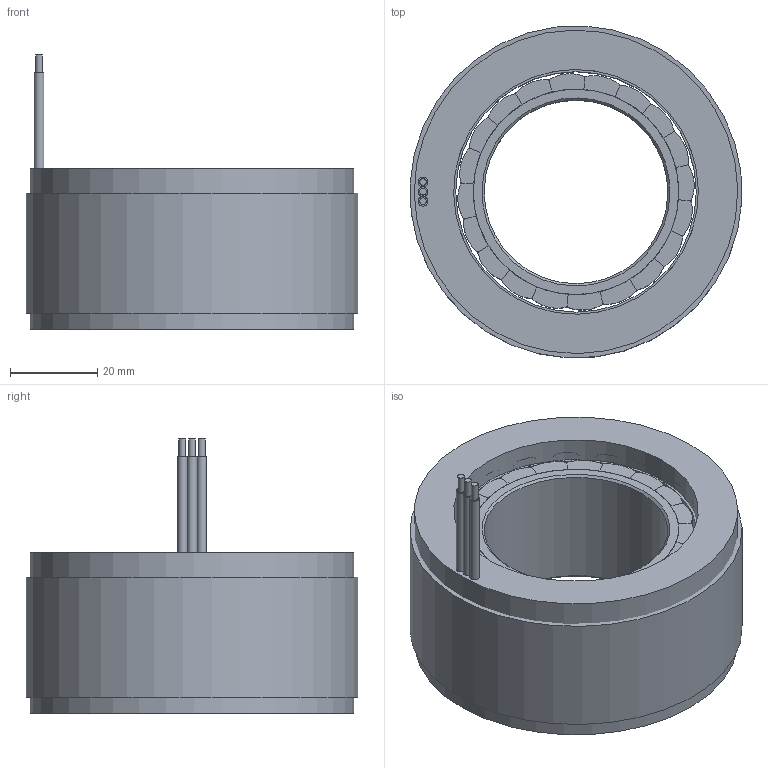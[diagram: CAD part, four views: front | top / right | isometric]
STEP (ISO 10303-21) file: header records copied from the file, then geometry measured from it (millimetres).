
FILE_DESCRIPTION (( 'STEP AP214' ), '1' );
FILE_NAME ('7626萇儂.STEP', '2024-01-17T05:49:47', ( '' ), ( '' ), 'SwSTEP 2.0', 'SolidWorks 2022', '' );
FILE_SCHEMA (( 'AUTOMOTIVE_DESIGN' ));
Length unit declared in the file: millimetre
Products named in the file (1): 7626萇儂
Bounding box: 75.89 x 75.89 x 62.7 mm (x, y, z)
Volume: 135484.2 mm3; surface area: 97770.3 mm2
Topology: 45 solids, 45 shells, 666 faces, 1711 edges, 1141 vertices
Faces by surface type: plane 370, cylinder 294, cone 2
Full cylindrical faces by diameter (mm): 1.55 x6, 2.2 x3, 42 x1, 47 x1, 55 x1, 56 x1, 72 x1, 74 x1, 76 x1
Entity records: 28100 total; most frequent: DIRECTION 3614, CARTESIAN_POINT 3495, ORIENTED_EDGE 3380, EDGE_CURVE 1690, AXIS2_PLACEMENT_3D 1257, VERTEX_POINT 1138, VECTOR 1100, LINE 1100
